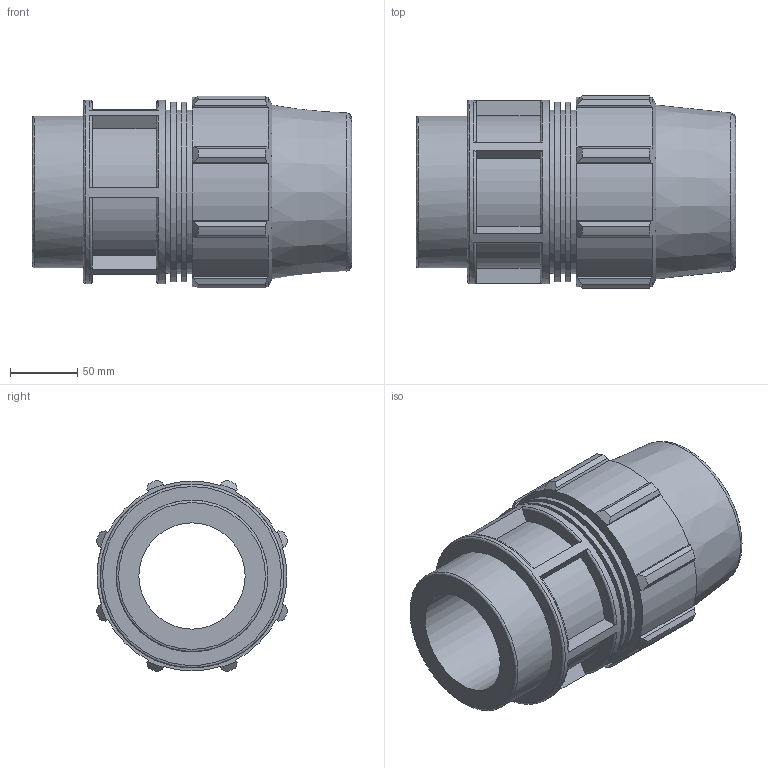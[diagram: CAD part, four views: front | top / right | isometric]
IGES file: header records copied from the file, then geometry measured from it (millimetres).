
Global section: file name: 870200090040_180200090040_840206090040.ipt; native system: Autodesk Inventor 2015; preprocessor: unknown; author: KIM; date: 20180325.201144; units: millimetre
Bounding box: 238 x 143.02 x 143.02 mm (x, y, z)
Volume: 1572583.4 mm3; surface area: 210925.3 mm2
Topology: 1 solids, 1 shells, 125 faces, 334 edges, 225 vertices
Faces by surface type: plane 67, cylinder 29, revolution 19, cone 10
Full cylindrical faces by diameter (mm): 113.03 x1, 121.6 x3, 134.064 x2, 136.8 x1
